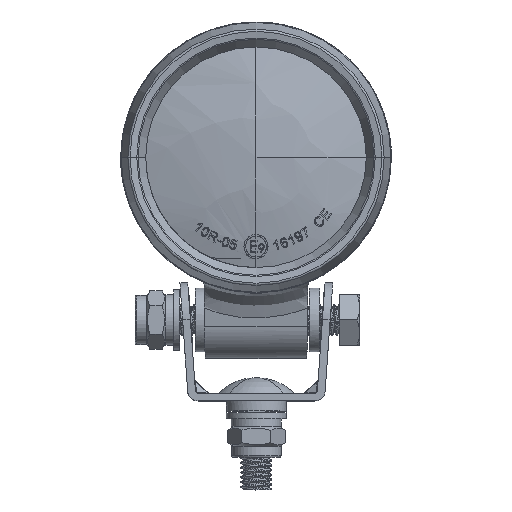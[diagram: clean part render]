
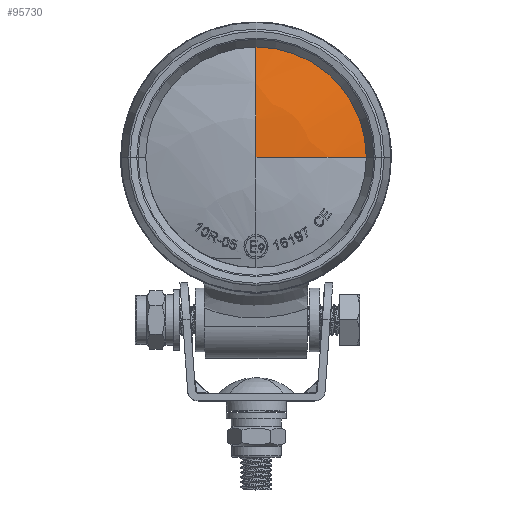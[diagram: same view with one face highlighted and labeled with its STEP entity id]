
A CAD part, top view. The second image highlights one B-rep face of the part: STEP entity #95730.
In plain terms, the highlighted spherical face has radius 103.531 mm.
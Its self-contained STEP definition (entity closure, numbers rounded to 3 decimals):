
#94558=VERTEX_POINT('',#94557) ;
#94565=VERTEX_POINT('',#94564) ;
#94628=VERTEX_POINT('',#94627) ;
#94561=DIRECTION('Axis2P3D Direction',(0.,0.,-1.)) ;
#94624=DIRECTION('Axis2P3D Direction',(0.,1.,0.)) ;
#95716=DIRECTION('Axis2P3D Direction',(0.,0.,-1.)) ;
#95717=DIRECTION('Axis2P3D XDirection',(0.,1.,0.)) ;
#95721=DIRECTION('Axis2P3D Direction',(-1.,0.,0.)) ;
#94557=CARTESIAN_POINT('Vertex',(0.,28.5,31.5)) ;
#94560=CARTESIAN_POINT('Axis2P3D Location',(0.,0.,31.5)) ;
#94564=CARTESIAN_POINT('Vertex',(28.5,0.,31.5)) ;
#94623=CARTESIAN_POINT('Axis2P3D Location',(0.,0.,-68.031)) ;
#94627=CARTESIAN_POINT('Vertex',(0.,0.,35.5)) ;
#95715=CARTESIAN_POINT('Axis2P3D Location',(0.,0.,-68.031)) ;
#95720=CARTESIAN_POINT('Axis2P3D Location',(0.,0.,-68.031)) ;
#94562=AXIS2_PLACEMENT_3D('Circle Axis2P3D',#94560,#94561,$) ;
#94625=AXIS2_PLACEMENT_3D('Circle Axis2P3D',#94623,#94624,$) ;
#95718=AXIS2_PLACEMENT_3D('Sphere Axis2P3D',#95715,#95716,#95717) ;
#95722=AXIS2_PLACEMENT_3D('Circle Axis2P3D',#95720,#95721,$) ;
#94563=CIRCLE('generated circle',#94562,28.5) ;
#94626=CIRCLE('generated circle',#94625,103.531) ;
#95723=CIRCLE('generated circle',#95722,103.531) ;
#95719=SPHERICAL_SURFACE('',#95718,103.531) ;
#94566=EDGE_CURVE('',#94565,#94558,#94563,.F.) ;
#94629=EDGE_CURVE('',#94628,#94565,#94626,.T.) ;
#95724=EDGE_CURVE('',#94558,#94628,#95723,.F.) ;
#95726=ORIENTED_EDGE('',*,*,#94629,.T.) ;
#95727=ORIENTED_EDGE('',*,*,#94566,.T.) ;
#95728=ORIENTED_EDGE('',*,*,#95724,.T.) ;
#95725=EDGE_LOOP('',(#95726,#95727,#95728)) ;
#95730=ADVANCED_FACE('Housing_gr',(#95729),#95719,.T.) ;
#95729=FACE_OUTER_BOUND('',#95725,.T.) ;
